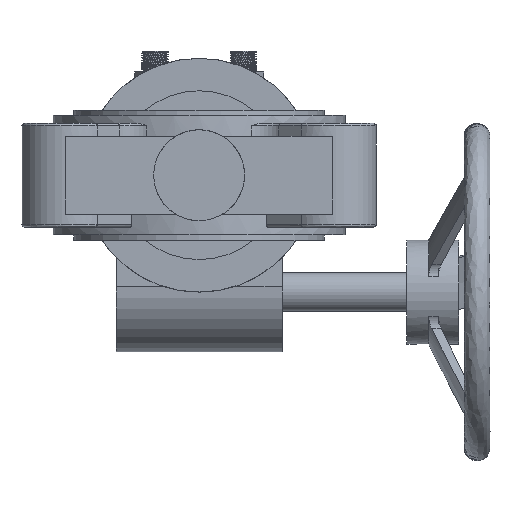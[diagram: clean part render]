
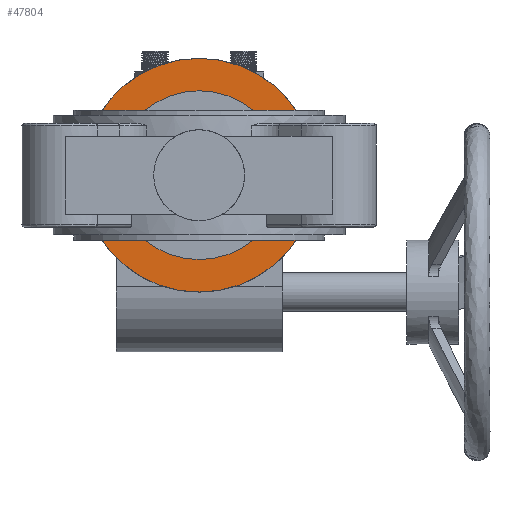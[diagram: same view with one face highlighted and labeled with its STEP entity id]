
A CAD part, front view. The second image highlights one B-rep face of the part: STEP entity #47804.
In plain terms, the highlighted planar face has unit normal (0, -1, 0).
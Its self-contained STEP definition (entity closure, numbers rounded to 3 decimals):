
#50 = EDGE_CURVE ( 'NONE', #26240, #26240, #37775, .T. ) ;
#1070 = FACE_BOUND ( 'NONE', #8361, .T. ) ;
#3223 = DIRECTION ( 'NONE',  ( 0., 1., 0. ) ) ;
#7551 = AXIS2_PLACEMENT_3D ( 'NONE', #16634, #21235, #28010 ) ;
#8361 = EDGE_LOOP ( 'NONE', ( #28155 ) ) ;
#8846 = CARTESIAN_POINT ( 'NONE',  ( -11.921, 90.098, 0. ) ) ;
#10007 = DIRECTION ( 'NONE',  ( 0., 0., 1. ) ) ;
#15881 = PLANE ( 'NONE',  #35946 ) ;
#16138 = AXIS2_PLACEMENT_3D ( 'NONE', #8846, #31174, #45954 ) ;
#16634 = CARTESIAN_POINT ( 'NONE',  ( -11.921, 90.098, 0. ) ) ;
#18498 = CARTESIAN_POINT ( 'NONE',  ( -11.921, 90.098, 45. ) ) ;
#20625 = VERTEX_POINT ( 'NONE', #39787 ) ;
#21235 = DIRECTION ( 'NONE',  ( 0., 1., 0. ) ) ;
#26240 = VERTEX_POINT ( 'NONE', #18498 ) ;
#28010 = DIRECTION ( 'NONE',  ( 0., 0., 1. ) ) ;
#28155 = ORIENTED_EDGE ( 'NONE', *, *, #37197, .F. ) ;
#31174 = DIRECTION ( 'NONE',  ( 0., -1., 0. ) ) ;
#31603 = FACE_OUTER_BOUND ( 'NONE', #36475, .T. ) ;
#35946 = AXIS2_PLACEMENT_3D ( 'NONE', #43497, #3223, #10007 ) ;
#36475 = EDGE_LOOP ( 'NONE', ( #38027 ) ) ;
#37033 = CIRCLE ( 'NONE', #16138, 32.5 ) ;
#37197 = EDGE_CURVE ( 'NONE', #20625, #20625, #37033, .T. ) ;
#37775 = CIRCLE ( 'NONE', #7551, 45. ) ;
#38027 = ORIENTED_EDGE ( 'NONE', *, *, #50, .F. ) ;
#39787 = CARTESIAN_POINT ( 'NONE',  ( -11.921, 90.098, 32.5 ) ) ;
#43497 = CARTESIAN_POINT ( 'NONE',  ( -11.921, 90.098, 0. ) ) ;
#45954 = DIRECTION ( 'NONE',  ( 0., 0., 1. ) ) ;
#47804 = ADVANCED_FACE ( 'NONE', ( #31603, #1070 ), #15881, .F. ) ;
